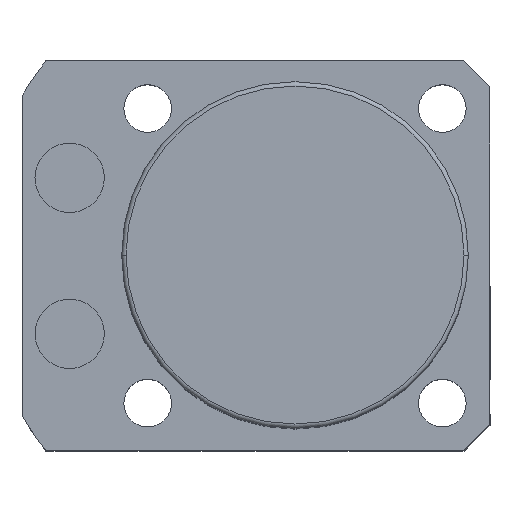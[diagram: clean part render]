
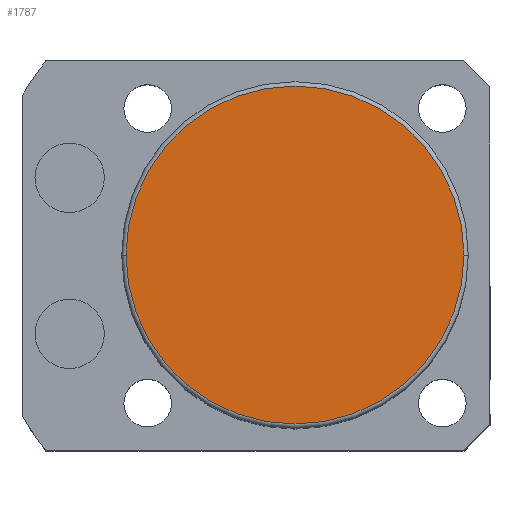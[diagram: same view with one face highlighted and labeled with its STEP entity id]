
A CAD part, top view. The second image highlights one B-rep face of the part: STEP entity #1787.
In plain terms, the highlighted planar face has unit normal (0, 0, 1).
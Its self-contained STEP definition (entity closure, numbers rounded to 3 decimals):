
#72 = ORIENTED_EDGE ( 'NONE', *, *, #2056, .T. ) ;
#124 = DIRECTION ( 'NONE',  ( 0., 0., 1. ) ) ;
#137 = AXIS2_PLACEMENT_3D ( 'NONE', #896, #674, #2314 ) ;
#443 = AXIS2_PLACEMENT_3D ( 'NONE', #831, #124, #1222 ) ;
#485 = ORIENTED_EDGE ( 'NONE', *, *, #969, .T. ) ;
#630 = PLANE ( 'NONE',  #137 ) ;
#674 = DIRECTION ( 'NONE',  ( 0., 0., 1. ) ) ;
#818 = DIRECTION ( 'NONE',  ( 0., 0., 1. ) ) ;
#831 = CARTESIAN_POINT ( 'NONE',  ( 0., 0., 63.5 ) ) ;
#896 = CARTESIAN_POINT ( 'NONE',  ( 0., 0., 63.5 ) ) ;
#969 = EDGE_CURVE ( 'NONE', #1916, #2287, #1754, .T. ) ;
#998 = DIRECTION ( 'NONE',  ( 1., 0., 0. ) ) ;
#1051 = EDGE_LOOP ( 'NONE', ( #485, #72 ) ) ;
#1068 = CIRCLE ( 'NONE', #1192, 19.5 ) ;
#1192 = AXIS2_PLACEMENT_3D ( 'NONE', #1725, #818, #998 ) ;
#1222 = DIRECTION ( 'NONE',  ( 1., 0., 0. ) ) ;
#1725 = CARTESIAN_POINT ( 'NONE',  ( 0., 0., 63.5 ) ) ;
#1754 = CIRCLE ( 'NONE', #443, 19.5 ) ;
#1787 = ADVANCED_FACE ( 'NONE', ( #2047 ), #630, .T. ) ;
#1891 = CARTESIAN_POINT ( 'NONE',  ( 19.5, 0., 63.5 ) ) ;
#1916 = VERTEX_POINT ( 'NONE', #1891 ) ;
#1957 = CARTESIAN_POINT ( 'NONE',  ( -19.5, 0., 63.5 ) ) ;
#2047 = FACE_OUTER_BOUND ( 'NONE', #1051, .T. ) ;
#2056 = EDGE_CURVE ( 'NONE', #2287, #1916, #1068, .T. ) ;
#2287 = VERTEX_POINT ( 'NONE', #1957 ) ;
#2314 = DIRECTION ( 'NONE',  ( 1., 0., 0. ) ) ;
